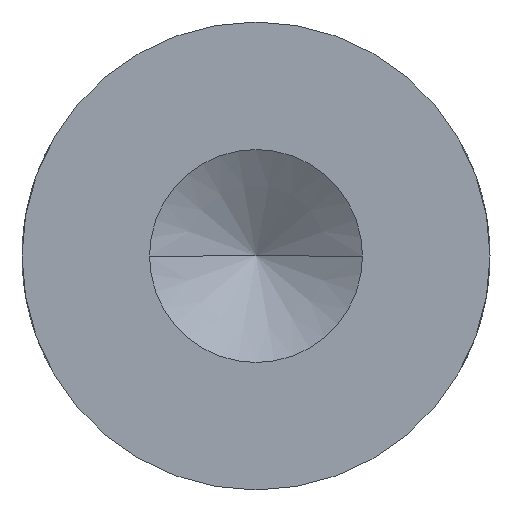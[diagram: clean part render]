
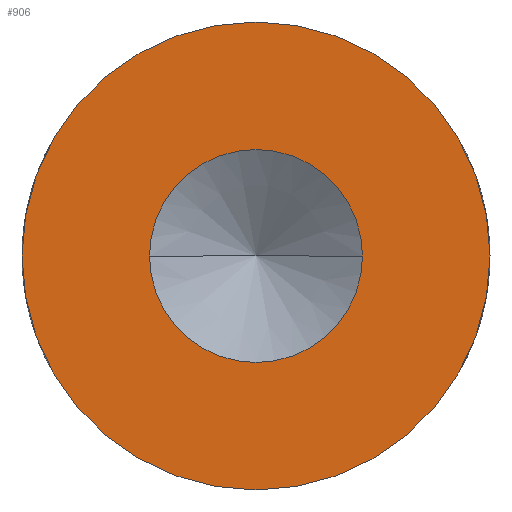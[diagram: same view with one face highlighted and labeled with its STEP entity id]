
A CAD part, left-side view. The second image highlights one B-rep face of the part: STEP entity #906.
In plain terms, the highlighted planar face has unit normal (-1, 0, 0).
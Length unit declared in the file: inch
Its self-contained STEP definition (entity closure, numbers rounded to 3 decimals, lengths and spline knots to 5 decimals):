
#133 = DIRECTION ( 'NONE',  ( 0., -1., 0. ) ) ;
#134 = DIRECTION ( 'NONE',  ( 1., 0., 0. ) ) ;
#135 = CARTESIAN_POINT ( 'NONE',  ( -77.6725, 2.87447, 0. ) ) ;
#136 = AXIS2_PLACEMENT_3D ( 'NONE', #135, #134, #133 ) ;
#137 = CIRCLE ( 'NONE', #136, 2.7295 ) ;
#138 = DIRECTION ( 'NONE',  ( 0., 1., 0. ) ) ;
#139 = DIRECTION ( 'NONE',  ( 1., 0., 0. ) ) ;
#140 = CARTESIAN_POINT ( 'NONE',  ( -77.6725, 2.87447, 0. ) ) ;
#141 = AXIS2_PLACEMENT_3D ( 'NONE', #140, #139, #138 ) ;
#142 = CIRCLE ( 'NONE', #141, 6. ) ;
#246 = CARTESIAN_POINT ( 'NONE',  ( -77.6725, 0.14497, 0. ) ) ;
#247 = DIRECTION ( 'NONE',  ( 0., -1., 0. ) ) ;
#248 = DIRECTION ( 'NONE',  ( 1., 0., 0. ) ) ;
#249 = CARTESIAN_POINT ( 'NONE',  ( -77.6725, 2.87447, 0. ) ) ;
#250 = AXIS2_PLACEMENT_3D ( 'NONE', #249, #248, #247 ) ;
#251 = CIRCLE ( 'NONE', #250, 2.7295 ) ;
#252 = CARTESIAN_POINT ( 'NONE',  ( -77.6725, 5.60397, 0. ) ) ;
#329 = CARTESIAN_POINT ( 'NONE',  ( -77.6725, -3.12553, 0. ) ) ;
#330 = CARTESIAN_POINT ( 'NONE',  ( -77.6725, 8.87447, 0. ) ) ;
#331 = DIRECTION ( 'NONE',  ( 0., 1., 0. ) ) ;
#332 = DIRECTION ( 'NONE',  ( 1., 0., 0. ) ) ;
#333 = CARTESIAN_POINT ( 'NONE',  ( -77.6725, 2.87447, 0. ) ) ;
#334 = AXIS2_PLACEMENT_3D ( 'NONE', #333, #332, #331 ) ;
#335 = CIRCLE ( 'NONE', #334, 6. ) ;
#688 = FACE_OUTER_BOUND ( 'NONE', #907, .T. ) ;
#730 = DIRECTION ( 'NONE',  ( 0., -1., 0. ) ) ;
#731 = DIRECTION ( 'NONE',  ( -1., 0., 0. ) ) ;
#732 = CARTESIAN_POINT ( 'NONE',  ( -77.6725, 5.87447, 0. ) ) ;
#733 = AXIS2_PLACEMENT_3D ( 'NONE', #732, #731, #730 ) ;
#734 = PLANE ( 'NONE',  #733 ) ;
#735 = FACE_BOUND ( 'NONE', #796, .T. ) ;
#794 = ORIENTED_EDGE ( 'NONE', *, *, #795, .F. ) ;
#795 = EDGE_CURVE ( 'NONE', #862, #861, #142, .T. ) ;
#796 = EDGE_LOOP ( 'NONE', ( #883, #884 ) ) ;
#797 = EDGE_CURVE ( 'NONE', #827, #830, #137, .T. ) ;
#827 = VERTEX_POINT ( 'NONE', #252 ) ;
#829 = EDGE_CURVE ( 'NONE', #830, #827, #251, .T. ) ;
#830 = VERTEX_POINT ( 'NONE', #246 ) ;
#860 = EDGE_CURVE ( 'NONE', #861, #862, #335, .T. ) ;
#861 = VERTEX_POINT ( 'NONE', #330 ) ;
#862 = VERTEX_POINT ( 'NONE', #329 ) ;
#883 = ORIENTED_EDGE ( 'NONE', *, *, #829, .T. ) ;
#884 = ORIENTED_EDGE ( 'NONE', *, *, #797, .T. ) ;
#906 = ADVANCED_FACE ( 'NONE', ( #688, #735 ), #734, .T. ) ;
#907 = EDGE_LOOP ( 'NONE', ( #908, #794 ) ) ;
#908 = ORIENTED_EDGE ( 'NONE', *, *, #860, .F. ) ;
